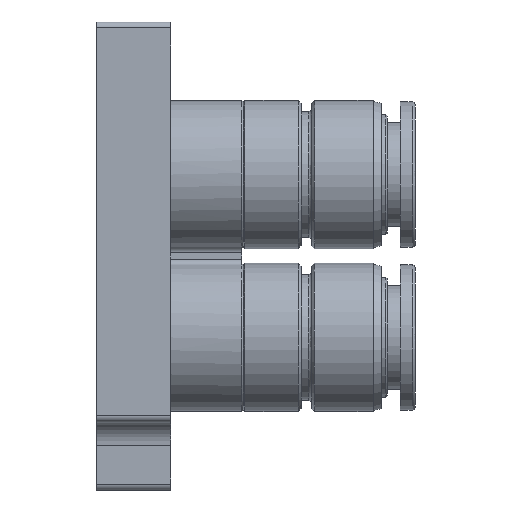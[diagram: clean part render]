
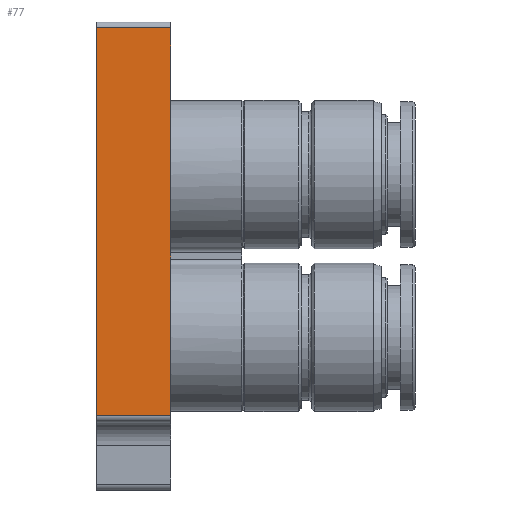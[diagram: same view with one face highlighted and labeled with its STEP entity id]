
A CAD part, left-side view. The second image highlights one B-rep face of the part: STEP entity #77.
In plain terms, the highlighted planar face has unit normal (-1, 0, 0).
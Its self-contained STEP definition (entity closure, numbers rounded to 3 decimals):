
#77=ADVANCED_FACE('',(#558),#557,.T.);
#557=PLANE('',#1693);
#558=FACE_OUTER_BOUND('',#1694,.T.);
#1690=CARTESIAN_POINT('',(-8.8,-5.5,-26.22));
#1691=DIRECTION('',(-1.,0.,0.));
#1692=DIRECTION('',(0.,0.,1.));
#1693=AXIS2_PLACEMENT_3D('',#1690,#1691,#1692);
#1694=EDGE_LOOP('',(#2848,#2849,#2850,#2851,#2852,#2853));
#2848=ORIENTED_EDGE('',*,*,#3264,.F.);
#2849=ORIENTED_EDGE('',*,*,#3359,.F.);
#2850=ORIENTED_EDGE('',*,*,#3354,.T.);
#2851=ORIENTED_EDGE('',*,*,#3232,.T.);
#2852=ORIENTED_EDGE('',*,*,#3248,.F.);
#2853=ORIENTED_EDGE('',*,*,#3245,.F.);
#3232=EDGE_CURVE('',#3561,#3554,#3562,.T.);
#3245=EDGE_CURVE('',#3645,#3617,#3652,.T.);
#3248=EDGE_CURVE('',#3617,#3554,#3671,.T.);
#3264=EDGE_CURVE('',#3773,#3645,#3780,.T.);
#3354=EDGE_CURVE('',#4398,#3561,#4399,.T.);
#3359=EDGE_CURVE('',#4398,#3773,#4430,.T.);
#3554=VERTEX_POINT('',#5399);
#3561=VERTEX_POINT('',#5404);
#3562=LINE('',#5405,#5406);
#3617=VERTEX_POINT('',#5441);
#3645=VERTEX_POINT('',#5460);
#3652=LINE('',#5465,#5466);
#3671=LINE('',#5476,#5477);
#3773=VERTEX_POINT('',#5541);
#3780=LINE('',#5546,#5547);
#4398=VERTEX_POINT('',#5965);
#4399=LINE('',#5966,#5967);
#4430=LINE('',#5983,#5984);
#5399=CARTESIAN_POINT('',(-8.8,-5.,-23.6));
#5404=CARTESIAN_POINT('',(-8.8,0.,-23.6));
#5405=CARTESIAN_POINT('',(-8.8,0.,-23.6));
#5406=VECTOR('',#5407,5.);
#5407=DIRECTION('',(0.,-1.,0.));
#5441=CARTESIAN_POINT('',(-8.8,-5.,-18.3));
#5460=CARTESIAN_POINT('',(-8.8,-5.,-7.3));
#5465=CARTESIAN_POINT('',(-8.8,-5.,-7.3));
#5466=VECTOR('',#5467,11.);
#5467=DIRECTION('',(0.,0.,-1.));
#5476=CARTESIAN_POINT('',(-8.8,-5.,-18.3));
#5477=VECTOR('',#5478,5.3);
#5478=DIRECTION('',(0.,0.,-1.));
#5541=CARTESIAN_POINT('',(-8.8,-5.,2.6));
#5546=CARTESIAN_POINT('',(-8.8,-5.,2.6));
#5547=VECTOR('',#5548,9.9);
#5548=DIRECTION('',(0.,0.,-1.));
#5965=CARTESIAN_POINT('',(-8.8,0.,2.6));
#5966=CARTESIAN_POINT('',(-8.8,0.,2.6));
#5967=VECTOR('',#5968,26.2);
#5968=DIRECTION('',(0.,0.,-1.));
#5983=CARTESIAN_POINT('',(-8.8,0.,2.6));
#5984=VECTOR('',#5985,5.);
#5985=DIRECTION('',(0.,-1.,0.));
